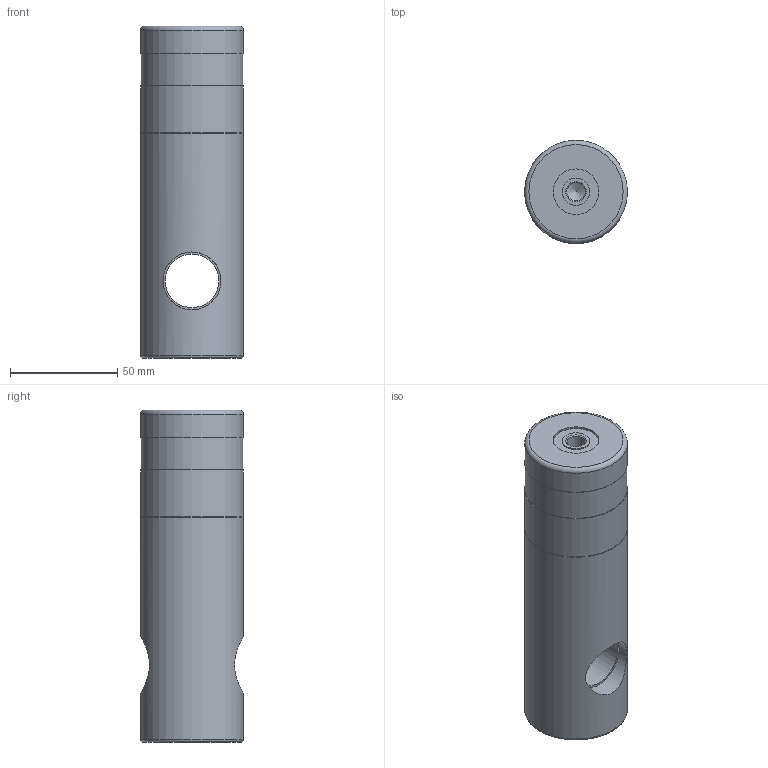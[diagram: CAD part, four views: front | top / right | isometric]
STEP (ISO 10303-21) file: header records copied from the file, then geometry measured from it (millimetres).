
FILE_DESCRIPTION(('STEP AP242'),'1');
FILE_NAME('A.6025_S Feststellpatrone.stp','2026-07-01T13:22:41',(' '),(' '),'Spatial InterOp 3D',' ',' ');
FILE_SCHEMA(('AP242_MANAGED_MODEL_BASED_3D_ENGINEERING_MIM_LF {1 0 10303 442 1 1 4}'));
Length unit declared in the file: millimetre
Products named in the file (1): A.6025_S Feststellpatrone
Bounding box: 48 x 48 x 155 mm (x, y, z)
Volume: 254891.3 mm3; surface area: 29758.4 mm2
Topology: 1 solids, 1 shells, 25 faces, 45 edges, 28 vertices
Faces by surface type: cylinder 11, plane 8, cone 4, torus 2
Full cylindrical faces by diameter (mm): 8.566 x2, 12.8 x1, 21.3 x1, 25 x1, 27 x2, 47.5 x1, 48 x3
Entity records: 987 total; most frequent: CARTESIAN_POINT 267, DIRECTION 98, EDGE_LOOP 50, ORIENTED_EDGE 50, AXIS2_PLACEMENT_3D 49, FACE_OUTER_BOUND 38, STYLED_ITEM 26, PRESENTATION_STYLE_ASSIGNMENT 26
